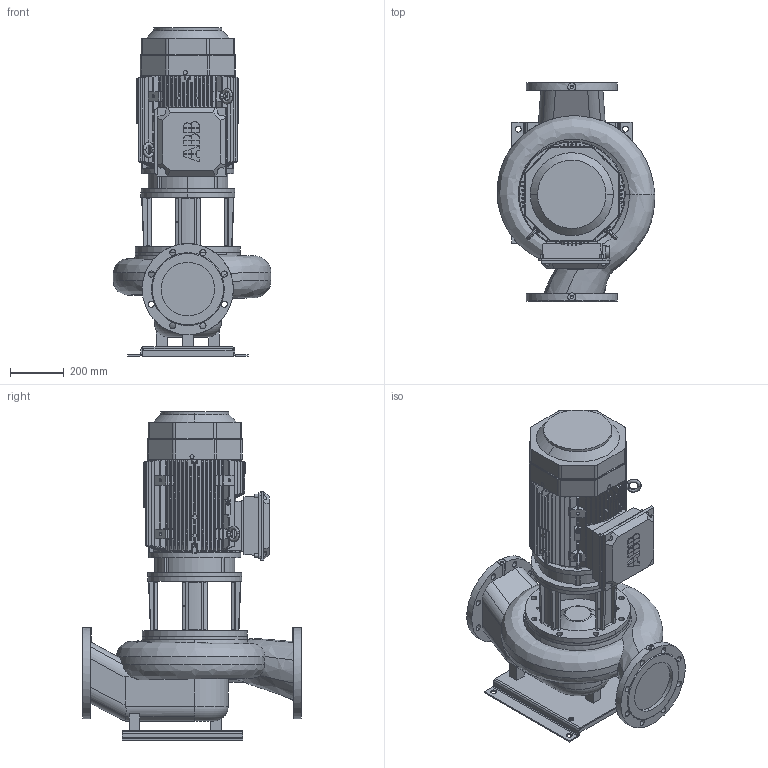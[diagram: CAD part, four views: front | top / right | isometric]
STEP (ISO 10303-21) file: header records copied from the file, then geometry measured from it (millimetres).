
FILE_DESCRIPTION(('STEP AP214'),'1');
FILE_NAME('export.stp','2018-05-29T13:39:27',(' '),(' '),'Spatial InterOp 3D',' ',' ');
FILE_SCHEMA(('AUTOMOTIVE_DESIGN { 1 0 10303 214 1 1 1 1 }'));
Length unit declared in the file: millimetre
Products named in the file (20): W_AL12024SD220; V_TLL100SAL1202; V_PPAL1202; P100464; P100462; P101191; IEC180_FRAME; P100781; IEC-180; 3GZV311000-999999-324000-324001_; 3GZV183002-193006-183002-183999_; -simplified-simplified_parts_Sta; -simplified-simplified_parts_M31; -simplified-simplified_parts_Fan; -simplified-simplified_parts_Ter; 3GZV244000-310999-294000-299999_; Implementation-STANDARD_PARTS_Li
Assembly tree (21 placements, depth 4):
  W_AL12024SD220
    V_TLL100SAL1202
    V_PPAL1202
    P100464
      P100462
      P101191  x2
    IEC180_FRAME
      P100781
      IEC-180
        3GZV311000-999999-324000-324001_
        3GZV183002-193006-183002-183999_
        -simplified-simplified_parts_Sta
        -simplified-simplified_parts_M31
        -simplified-simplified_parts_Fan
        -simplified-simplified_parts_Ter
        -simplified-simplified_parts_Ter
        3GZV244000-310999-294000-299999_
        3GZV244000-310999-294000-299999_
        3GZV244000-310999-294000-299999_
        Implementation-STANDARD_PARTS_Li  x2
Bounding box: 588.87 x 820 x 1225.44 mm (x, y, z)
Volume: 125358128.8 mm3; surface area: 6031853.6 mm2
Topology: 13 solids, 143 shells, 1695 faces, 4803 edges, 3250 vertices
Faces by surface type: bspline 1265, cylinder 236, plane 124, torus 40, cone 30
Entity records: 88785 total; most frequent: CARTESIAN_POINT 30100, ORIENTED_EDGE 8655, STYLED_ITEM 4718, PRESENTATION_STYLE_ASSIGNMENT 4718, COLOUR_RGB 4718, EDGE_CURVE 4573, VERTEX_POINT 3095, CURVE_STYLE 3074
